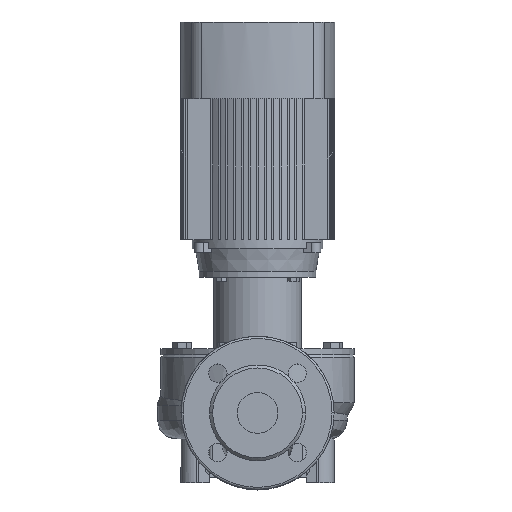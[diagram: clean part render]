
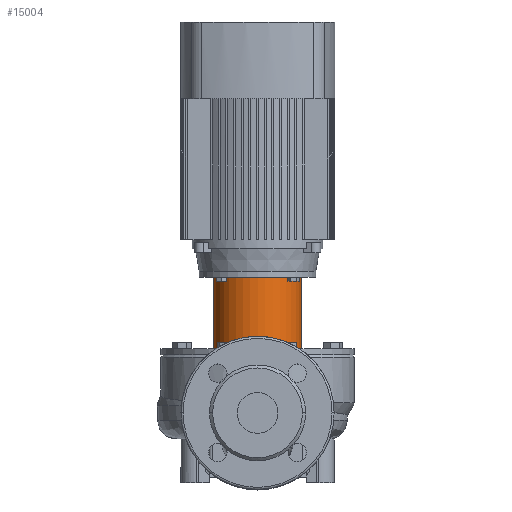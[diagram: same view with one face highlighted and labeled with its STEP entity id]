
A CAD part, top view. The second image highlights one B-rep face of the part: STEP entity #15004.
In plain terms, the highlighted cylindrical face has radius 43 mm (diameter 86 mm), a partial arc.
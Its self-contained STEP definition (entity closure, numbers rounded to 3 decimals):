
#1277 = ORIENTED_EDGE ( 'NONE', *, *, #6682, .F. ) ;
#1543 = CIRCLE ( 'NONE', #18966, 43. ) ;
#1576 = DIRECTION ( 'NONE',  ( 0., 0., 1. ) ) ;
#2008 = DIRECTION ( 'NONE',  ( 0., 0., 1. ) ) ;
#2014 = EDGE_CURVE ( 'NONE', #20175, #14458, #21917, .T. ) ;
#2216 = VECTOR ( 'NONE', #12201, 1000. ) ;
#2316 = CARTESIAN_POINT ( 'NONE',  ( -43., 0., -76. ) ) ;
#2995 = ORIENTED_EDGE ( 'NONE', *, *, #2014, .F. ) ;
#3578 = LINE ( 'NONE', #19807, #23860 ) ;
#4958 = FACE_OUTER_BOUND ( 'NONE', #6857, .T. ) ;
#5498 = CARTESIAN_POINT ( 'NONE',  ( 0., 0., 14.36 ) ) ;
#5760 = EDGE_CURVE ( 'NONE', #17082, #16390, #3578, .T. ) ;
#6071 = CARTESIAN_POINT ( 'NONE',  ( -43., 0., 14.36 ) ) ;
#6386 = DIRECTION ( 'NONE',  ( 1., 0., 0. ) ) ;
#6682 = EDGE_CURVE ( 'NONE', #14458, #16390, #22517, .T. ) ;
#6857 = EDGE_LOOP ( 'NONE', ( #2995, #15334, #15926, #1277 ) ) ;
#7366 = CYLINDRICAL_SURFACE ( 'NONE', #23239, 43. ) ;
#12201 = DIRECTION ( 'NONE',  ( 0., 0., 1. ) ) ;
#13359 = DIRECTION ( 'NONE',  ( 1., 0., 0. ) ) ;
#13426 = EDGE_CURVE ( 'NONE', #20175, #17082, #1543, .T. ) ;
#13625 = DIRECTION ( 'NONE',  ( 0., 0., 1. ) ) ;
#14458 = VERTEX_POINT ( 'NONE', #18839 ) ;
#14923 = DIRECTION ( 'NONE',  ( 1., 0., 0. ) ) ;
#15004 = ADVANCED_FACE ( 'NONE', ( #4958 ), #7366, .T. ) ;
#15334 = ORIENTED_EDGE ( 'NONE', *, *, #13426, .T. ) ;
#15926 = ORIENTED_EDGE ( 'NONE', *, *, #5760, .T. ) ;
#16390 = VERTEX_POINT ( 'NONE', #23034 ) ;
#17082 = VERTEX_POINT ( 'NONE', #24150 ) ;
#18839 = CARTESIAN_POINT ( 'NONE',  ( -43., 0., -6. ) ) ;
#18966 = AXIS2_PLACEMENT_3D ( 'NONE', #24367, #2008, #6386 ) ;
#19807 = CARTESIAN_POINT ( 'NONE',  ( 43., 0., 14.36 ) ) ;
#20175 = VERTEX_POINT ( 'NONE', #2316 ) ;
#21039 = CARTESIAN_POINT ( 'NONE',  ( 0., 0., -6. ) ) ;
#21917 = LINE ( 'NONE', #6071, #2216 ) ;
#22517 = CIRCLE ( 'NONE', #25058, 43. ) ;
#22898 = DIRECTION ( 'NONE',  ( 0., 0., 1. ) ) ;
#23034 = CARTESIAN_POINT ( 'NONE',  ( 43., 0., -6. ) ) ;
#23239 = AXIS2_PLACEMENT_3D ( 'NONE', #5498, #13625, #13359 ) ;
#23860 = VECTOR ( 'NONE', #1576, 1000. ) ;
#24150 = CARTESIAN_POINT ( 'NONE',  ( 43., 0., -76. ) ) ;
#24367 = CARTESIAN_POINT ( 'NONE',  ( 0., 0., -76. ) ) ;
#25058 = AXIS2_PLACEMENT_3D ( 'NONE', #21039, #22898, #14923 ) ;
